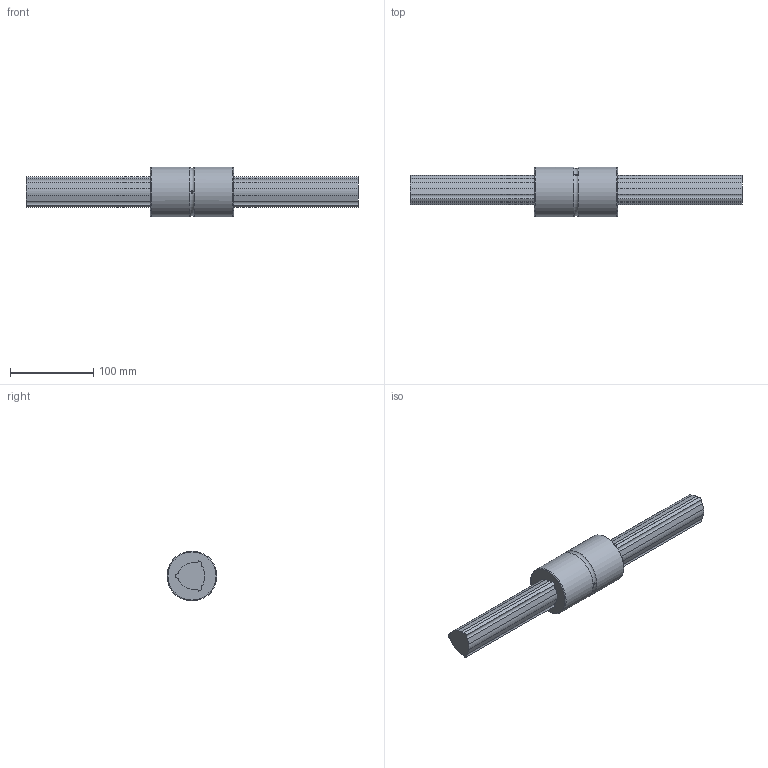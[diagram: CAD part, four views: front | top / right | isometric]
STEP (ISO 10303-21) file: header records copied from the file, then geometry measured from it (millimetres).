
FILE_DESCRIPTION(/* description */ ('STEP AP214'),/* implementation_level */ '2;1');
FILE_NAME(/* name */ 'LBST40+400L(1001500)',/* time_stamp */ '2024-09-04T12:55:02+02:00',/* author */ ('License CC BY-ND 4.0'),/* organization */ ('CADENAS'),/* preprocessor_version */ 'ST-DEVELOPER v19.3',/* originating_system */ 'PARTsolutions',/* authorisation */ ' ');
FILE_SCHEMA (('AUTOMOTIVE_DESIGN {1 0 10303 214 3 1 1}'));
Length unit declared in the file: millimetre
Products named in the file (3): LBST40+400L(1001500); LBST401400 Spline Shaft; LBST40 Nut
Assembly tree (2 placements, depth 2):
  LBST40+400L(1001500)
    LBST401400 Spline Shaft
    LBST40 Nut
Bounding box: 400 x 60 x 60 mm (x, y, z)
Volume: 539078.9 mm3; surface area: 83740.4 mm2
Topology: 3 solids, 3 shells, 57 faces, 148 edges, 99 vertices
Faces by surface type: cylinder 31, plane 22, torus 4
Full cylindrical faces by diameter (mm): 3 x3, 60 x2
Entity records: 1796 total; most frequent: CARTESIAN_POINT 341, DIRECTION 306, ORIENTED_EDGE 272, EDGE_CURVE 136, AXIS2_PLACEMENT_3D 118, VERTEX_POINT 94, LINE 70, VECTOR 70
